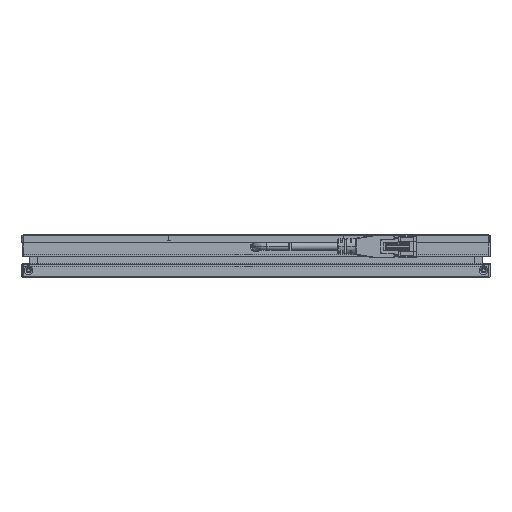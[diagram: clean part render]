
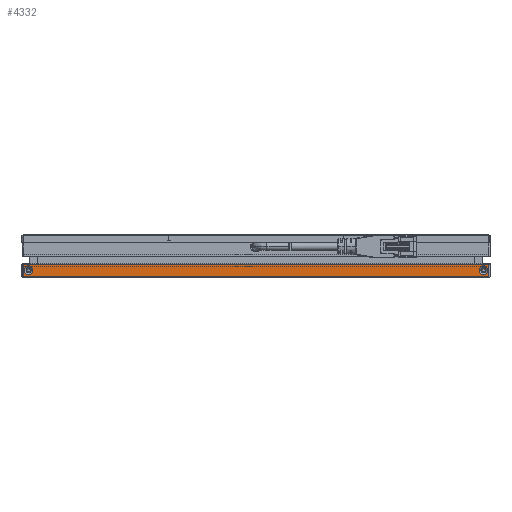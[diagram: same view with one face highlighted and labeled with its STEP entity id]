
A CAD part, left-side view. The second image highlights one B-rep face of the part: STEP entity #4332.
In plain terms, the highlighted planar face has unit normal (-1, 0, 0).
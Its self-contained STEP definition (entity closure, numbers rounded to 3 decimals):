
#265 = EDGE_CURVE ( 'NONE', #2418, #1112, #9004, .T. ) ;
#274 = DIRECTION ( 'NONE',  ( 0., 0., -1. ) ) ;
#399 = ORIENTED_EDGE ( 'NONE', *, *, #6708, .T. ) ;
#889 = EDGE_LOOP ( 'NONE', ( #6986, #399 ) ) ;
#1112 = VERTEX_POINT ( 'NONE', #4665 ) ;
#1236 = CIRCLE ( 'NONE', #7385, 2. ) ;
#1299 = CARTESIAN_POINT ( 'NONE',  ( -132., 104., -12.5 ) ) ;
#1393 = DIRECTION ( 'NONE',  ( 1., 0., 0. ) ) ;
#1587 = CARTESIAN_POINT ( 'NONE',  ( -132., -106.5, -15.5 ) ) ;
#1775 = VECTOR ( 'NONE', #4632, 1000. ) ;
#2056 = LINE ( 'NONE', #8561, #9544 ) ;
#2059 = VECTOR ( 'NONE', #274, 1000. ) ;
#2376 = CARTESIAN_POINT ( 'NONE',  ( -132., 106.5, -15.5 ) ) ;
#2418 = VERTEX_POINT ( 'NONE', #5096 ) ;
#2737 = VERTEX_POINT ( 'NONE', #5809 ) ;
#2752 = EDGE_CURVE ( 'NONE', #5904, #2737, #2056, .T. ) ;
#2779 = FACE_BOUND ( 'NONE', #7426, .T. ) ;
#2827 = ORIENTED_EDGE ( 'NONE', *, *, #2752, .F. ) ;
#2969 = CARTESIAN_POINT ( 'NONE',  ( -132., 107., -15.5 ) ) ;
#3128 = VERTEX_POINT ( 'NONE', #1587 ) ;
#3160 = ORIENTED_EDGE ( 'NONE', *, *, #7756, .T. ) ;
#3227 = EDGE_CURVE ( 'NONE', #4917, #8421, #4787, .T. ) ;
#3284 = AXIS2_PLACEMENT_3D ( 'NONE', #9346, #6368, #11215 ) ;
#3351 = CARTESIAN_POINT ( 'NONE',  ( -132., -104., -12.5 ) ) ;
#3532 = FACE_BOUND ( 'NONE', #889, .T. ) ;
#3556 = CARTESIAN_POINT ( 'NONE',  ( -132., 107., -15.5 ) ) ;
#3743 = EDGE_CURVE ( 'NONE', #1112, #2418, #1236, .T. ) ;
#3815 = CARTESIAN_POINT ( 'NONE',  ( -132., 106.5, -9.85 ) ) ;
#4297 = FACE_OUTER_BOUND ( 'NONE', #6203, .T. ) ;
#4332 = ADVANCED_FACE ( 'NONE', ( #3532, #2779, #4297 ), #5454, .F. ) ;
#4632 = DIRECTION ( 'NONE',  ( 0., -1., 0. ) ) ;
#4665 = CARTESIAN_POINT ( 'NONE',  ( -132., -104., -14.5 ) ) ;
#4787 = CIRCLE ( 'NONE', #3284, 2. ) ;
#4917 = VERTEX_POINT ( 'NONE', #10423 ) ;
#4981 = EDGE_CURVE ( 'NONE', #5904, #9466, #8553, .T. ) ;
#5080 = DIRECTION ( 'NONE',  ( 1., 0., 0. ) ) ;
#5096 = CARTESIAN_POINT ( 'NONE',  ( -132., -104., -10.5 ) ) ;
#5133 = CARTESIAN_POINT ( 'NONE',  ( -132., 104., -10.5 ) ) ;
#5454 = PLANE ( 'NONE',  #11635 ) ;
#5782 = DIRECTION ( 'NONE',  ( 0., 0., -1. ) ) ;
#5809 = CARTESIAN_POINT ( 'NONE',  ( -132., -106.5, -9.85 ) ) ;
#5904 = VERTEX_POINT ( 'NONE', #3815 ) ;
#6203 = EDGE_LOOP ( 'NONE', ( #2827, #11691, #3160, #6629 ) ) ;
#6368 = DIRECTION ( 'NONE',  ( 1., 0., 0. ) ) ;
#6550 = DIRECTION ( 'NONE',  ( 0., 0., 1. ) ) ;
#6629 = ORIENTED_EDGE ( 'NONE', *, *, #9380, .F. ) ;
#6708 = EDGE_CURVE ( 'NONE', #8421, #4917, #6969, .T. ) ;
#6969 = CIRCLE ( 'NONE', #9474, 2. ) ;
#6986 = ORIENTED_EDGE ( 'NONE', *, *, #3227, .T. ) ;
#7385 = AXIS2_PLACEMENT_3D ( 'NONE', #3351, #1393, #11112 ) ;
#7426 = EDGE_LOOP ( 'NONE', ( #10082, #12396 ) ) ;
#7756 = EDGE_CURVE ( 'NONE', #9466, #3128, #9866, .T. ) ;
#7884 = DIRECTION ( 'NONE',  ( 0., 0., -1. ) ) ;
#8121 = DIRECTION ( 'NONE',  ( 1., 0., 0. ) ) ;
#8421 = VERTEX_POINT ( 'NONE', #5133 ) ;
#8553 = LINE ( 'NONE', #10634, #10085 ) ;
#8561 = CARTESIAN_POINT ( 'NONE',  ( -132., 107., -9.85 ) ) ;
#9004 = CIRCLE ( 'NONE', #11872, 2. ) ;
#9120 = CARTESIAN_POINT ( 'NONE',  ( -132., -106.5, 0. ) ) ;
#9346 = CARTESIAN_POINT ( 'NONE',  ( -132., 104., -12.5 ) ) ;
#9380 = EDGE_CURVE ( 'NONE', #2737, #3128, #11513, .T. ) ;
#9466 = VERTEX_POINT ( 'NONE', #2376 ) ;
#9474 = AXIS2_PLACEMENT_3D ( 'NONE', #1299, #8121, #11244 ) ;
#9544 = VECTOR ( 'NONE', #11493, 1000. ) ;
#9866 = LINE ( 'NONE', #2969, #1775 ) ;
#10082 = ORIENTED_EDGE ( 'NONE', *, *, #3743, .T. ) ;
#10085 = VECTOR ( 'NONE', #5782, 1000. ) ;
#10398 = DIRECTION ( 'NONE',  ( 1., 0., 0. ) ) ;
#10423 = CARTESIAN_POINT ( 'NONE',  ( -132., 104., -14.5 ) ) ;
#10634 = CARTESIAN_POINT ( 'NONE',  ( -132., 106.5, 0. ) ) ;
#11112 = DIRECTION ( 'NONE',  ( 0., 0., -1. ) ) ;
#11215 = DIRECTION ( 'NONE',  ( 0., 0., -1. ) ) ;
#11244 = DIRECTION ( 'NONE',  ( 0., 0., -1. ) ) ;
#11493 = DIRECTION ( 'NONE',  ( 0., -1., 0. ) ) ;
#11513 = LINE ( 'NONE', #9120, #2059 ) ;
#11635 = AXIS2_PLACEMENT_3D ( 'NONE', #3556, #10398, #6550 ) ;
#11691 = ORIENTED_EDGE ( 'NONE', *, *, #4981, .T. ) ;
#11713 = CARTESIAN_POINT ( 'NONE',  ( -132., -104., -12.5 ) ) ;
#11872 = AXIS2_PLACEMENT_3D ( 'NONE', #11713, #5080, #7884 ) ;
#12396 = ORIENTED_EDGE ( 'NONE', *, *, #265, .T. ) ;
